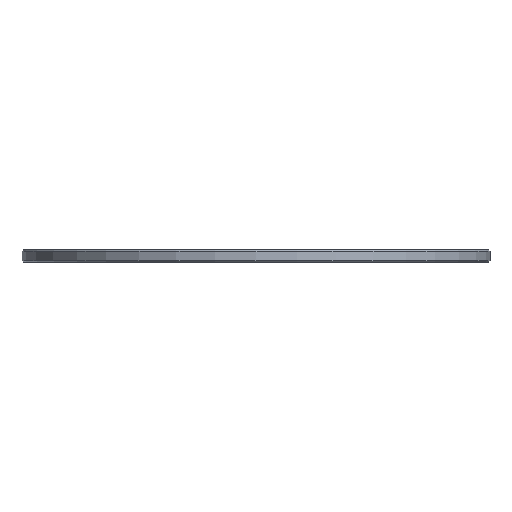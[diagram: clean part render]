
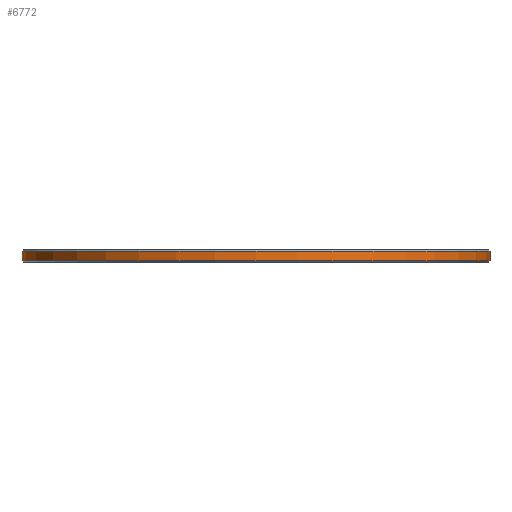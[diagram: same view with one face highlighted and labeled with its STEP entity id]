
A CAD part, front view. The second image highlights one B-rep face of the part: STEP entity #6772.
In plain terms, the highlighted cylindrical face has radius 59.375 mm (diameter 118.75 mm), a full revolution.
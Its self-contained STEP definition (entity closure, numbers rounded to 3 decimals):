
#89=CYLINDRICAL_SURFACE('',#7222,59.375);
#687=FACE_OUTER_BOUND('',#1098,.T.);
#1098=EDGE_LOOP('',(#6211,#6212,#6213,#6214));
#1226=CIRCLE('',#7221,59.375);
#1227=CIRCLE('',#7223,59.375);
#2049=LINE('',#10834,#2888);
#2888=VECTOR('',#8872,59.375);
#3512=VERTEX_POINT('',#10828);
#3513=VERTEX_POINT('',#10832);
#4416=EDGE_CURVE('',#3512,#3512,#1226,.T.);
#4418=EDGE_CURVE('',#3513,#3513,#1227,.T.);
#4419=EDGE_CURVE('',#3513,#3512,#2049,.T.);
#6211=ORIENTED_EDGE('',*,*,#4418,.F.);
#6212=ORIENTED_EDGE('',*,*,#4419,.T.);
#6213=ORIENTED_EDGE('',*,*,#4416,.F.);
#6214=ORIENTED_EDGE('',*,*,#4419,.F.);
#6772=ADVANCED_FACE('',(#687),#89,.T.);
#7221=AXIS2_PLACEMENT_3D('',#10829,#8865,#8866);
#7222=AXIS2_PLACEMENT_3D('',#10831,#8868,#8869);
#7223=AXIS2_PLACEMENT_3D('',#10833,#8870,#8871);
#8865=DIRECTION('center_axis',(0.,0.,-1.));
#8866=DIRECTION('ref_axis',(1.,0.,0.));
#8868=DIRECTION('center_axis',(0.,0.,1.));
#8869=DIRECTION('ref_axis',(1.,0.,0.));
#8870=DIRECTION('center_axis',(0.,0.,1.));
#8871=DIRECTION('ref_axis',(1.,0.,0.));
#8872=DIRECTION('',(0.,0.,-1.));
#10828=CARTESIAN_POINT('',(-59.375,0.,0.3));
#10829=CARTESIAN_POINT('Origin',(0.,0.,0.3));
#10831=CARTESIAN_POINT('Origin',(0.,0.,0.));
#10832=CARTESIAN_POINT('',(-59.375,0.,2.825));
#10833=CARTESIAN_POINT('Origin',(0.,0.,2.825));
#10834=CARTESIAN_POINT('',(-59.375,0.,0.));
